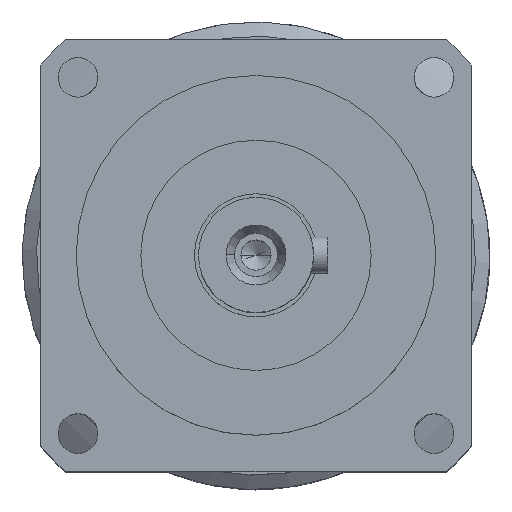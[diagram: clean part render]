
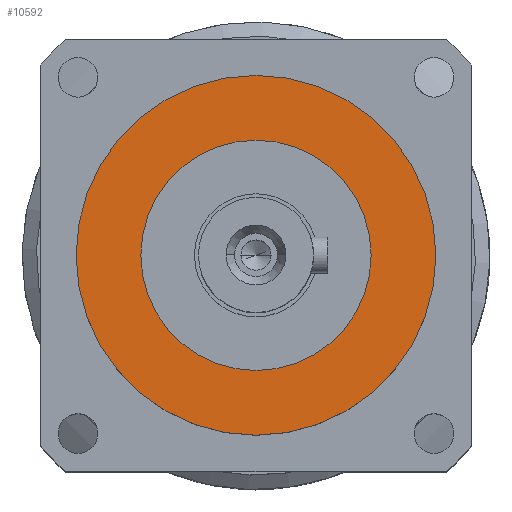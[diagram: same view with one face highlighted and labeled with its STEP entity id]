
A CAD part, top view. The second image highlights one B-rep face of the part: STEP entity #10592.
In plain terms, the highlighted planar face has unit normal (0, 0, 1).
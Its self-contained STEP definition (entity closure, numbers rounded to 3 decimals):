
#433 = AXIS2_PLACEMENT_3D ( 'NONE', #32151, #12717, #35354 ) ;
#2341 = CARTESIAN_POINT ( 'NONE',  ( -25., 0., 0. ) ) ;
#4130 = CARTESIAN_POINT ( 'NONE',  ( 0., 0., 0. ) ) ;
#5246 = DIRECTION ( 'NONE',  ( -1., 0., 0. ) ) ;
#5304 = DIRECTION ( 'NONE',  ( 0., 0., -1. ) ) ;
#5478 = CARTESIAN_POINT ( 'NONE',  ( 0., 0., 0. ) ) ;
#7483 = DIRECTION ( 'NONE',  ( 1., 0., 0. ) ) ;
#8253 = PLANE ( 'NONE',  #22161 ) ;
#8299 = CARTESIAN_POINT ( 'NONE',  ( 0., 0., 0. ) ) ;
#10592 = ADVANCED_FACE ( 'NONE', ( #35961, #36200 ), #8253, .F. ) ;
#11254 = AXIS2_PLACEMENT_3D ( 'NONE', #33728, #14351, #36899 ) ;
#11612 = DIRECTION ( 'NONE',  ( 1., 0., 0. ) ) ;
#12259 = ORIENTED_EDGE ( 'NONE', *, *, #28526, .F. ) ;
#12717 = DIRECTION ( 'NONE',  ( 0., 0., -1. ) ) ;
#13807 = CIRCLE ( 'NONE', #11254, 16. ) ;
#14351 = DIRECTION ( 'NONE',  ( 0., 0., 1. ) ) ;
#16530 = CARTESIAN_POINT ( 'NONE',  ( 25., 0., 0. ) ) ;
#18277 = CARTESIAN_POINT ( 'NONE',  ( 16., 0., 0. ) ) ;
#18663 = EDGE_CURVE ( 'NONE', #34462, #36312, #32776, .T. ) ;
#18835 = AXIS2_PLACEMENT_3D ( 'NONE', #8299, #31085, #11612 ) ;
#19284 = VERTEX_POINT ( 'NONE', #18277 ) ;
#21765 = EDGE_CURVE ( 'NONE', #19284, #33312, #13807, .T. ) ;
#22161 = AXIS2_PLACEMENT_3D ( 'NONE', #5478, #5304, #5246 ) ;
#22741 = ORIENTED_EDGE ( 'NONE', *, *, #18663, .F. ) ;
#27059 = DIRECTION ( 'NONE',  ( 0., 0., 1. ) ) ;
#27668 = EDGE_CURVE ( 'NONE', #33312, #19284, #27936, .T. ) ;
#27936 = CIRCLE ( 'NONE', #37593, 16. ) ;
#28526 = EDGE_CURVE ( 'NONE', #36312, #34462, #34309, .T. ) ;
#30240 = ORIENTED_EDGE ( 'NONE', *, *, #21765, .F. ) ;
#31085 = DIRECTION ( 'NONE',  ( 0., 0., -1. ) ) ;
#32151 = CARTESIAN_POINT ( 'NONE',  ( 0., 0., 0. ) ) ;
#32776 = CIRCLE ( 'NONE', #18835, 25. ) ;
#33312 = VERTEX_POINT ( 'NONE', #40504 ) ;
#33728 = CARTESIAN_POINT ( 'NONE',  ( 0., 0., 0. ) ) ;
#34190 = ORIENTED_EDGE ( 'NONE', *, *, #27668, .F. ) ;
#34309 = CIRCLE ( 'NONE', #433, 25. ) ;
#34462 = VERTEX_POINT ( 'NONE', #2341 ) ;
#35354 = DIRECTION ( 'NONE',  ( 1., 0., 0. ) ) ;
#35961 = FACE_BOUND ( 'NONE', #37866, .T. ) ;
#36200 = FACE_OUTER_BOUND ( 'NONE', #39670, .T. ) ;
#36312 = VERTEX_POINT ( 'NONE', #16530 ) ;
#36899 = DIRECTION ( 'NONE',  ( 1., 0., 0. ) ) ;
#37593 = AXIS2_PLACEMENT_3D ( 'NONE', #4130, #27059, #7483 ) ;
#37866 = EDGE_LOOP ( 'NONE', ( #30240, #34190 ) ) ;
#39670 = EDGE_LOOP ( 'NONE', ( #12259, #22741 ) ) ;
#40504 = CARTESIAN_POINT ( 'NONE',  ( -16., 0., 0. ) ) ;
